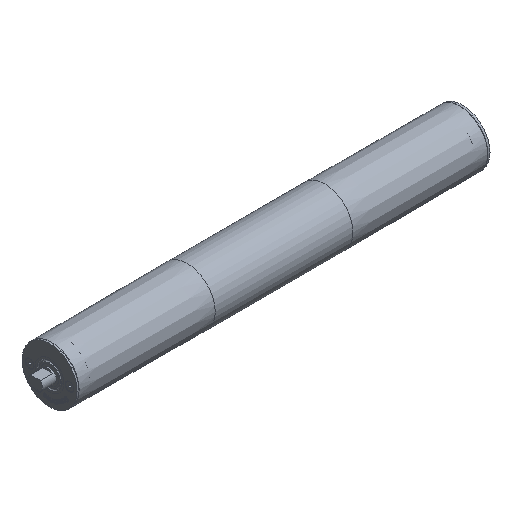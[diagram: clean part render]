
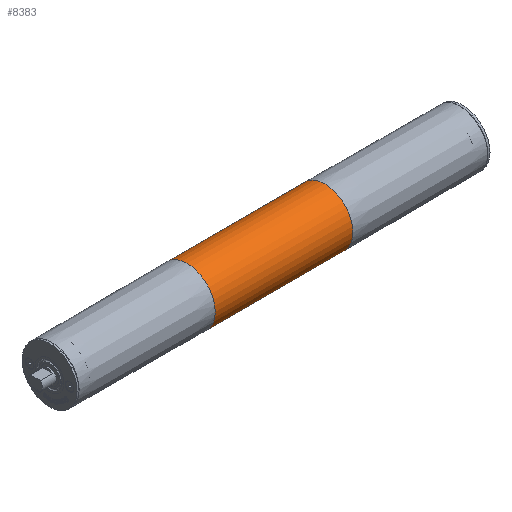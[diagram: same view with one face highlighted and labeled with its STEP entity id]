
A CAD part, isometric view. The second image highlights one B-rep face of the part: STEP entity #8383.
In plain terms, the highlighted cylindrical face has radius 40.75 mm (diameter 81.5 mm), a full revolution.
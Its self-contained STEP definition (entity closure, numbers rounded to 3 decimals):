
#16=CYLINDRICAL_SURFACE('',#8785,40.75);
#49=CIRCLE('',#8777,40.75);
#53=CIRCLE('',#8784,40.75);
#162=FACE_BOUND('',#1535,.T.);
#1027=FACE_OUTER_BOUND('',#1534,.T.);
#1534=EDGE_LOOP('',(#6588));
#1535=EDGE_LOOP('',(#6589));
#3792=VERTEX_POINT('',#12900);
#3796=VERTEX_POINT('',#12911);
#4811=EDGE_CURVE('',#3792,#3792,#49,.T.);
#4815=EDGE_CURVE('',#3796,#3796,#53,.T.);
#6588=ORIENTED_EDGE('',*,*,#4811,.T.);
#6589=ORIENTED_EDGE('',*,*,#4815,.F.);
#8383=ADVANCED_FACE('',(#1027,#162),#16,.T.);
#8777=AXIS2_PLACEMENT_3D('',#12901,#9604,#9605);
#8784=AXIS2_PLACEMENT_3D('',#12912,#9618,#9619);
#8785=AXIS2_PLACEMENT_3D('',#12913,#9620,#9621);
#9604=DIRECTION('center_axis',(1.,0.,0.));
#9605=DIRECTION('ref_axis',(0.,0.,-1.));
#9618=DIRECTION('center_axis',(1.,0.,0.));
#9619=DIRECTION('ref_axis',(0.,0.,-1.));
#9620=DIRECTION('center_axis',(1.,0.,0.));
#9621=DIRECTION('ref_axis',(0.,1.,0.));
#12900=CARTESIAN_POINT('',(-100.,40.75,0.));
#12901=CARTESIAN_POINT('Origin',(-100.,0.,
0.));
#12911=CARTESIAN_POINT('',(100.,40.75,0.));
#12912=CARTESIAN_POINT('Origin',(100.,0.,
0.));
#12913=CARTESIAN_POINT('Origin',(0.,0.,0.));
